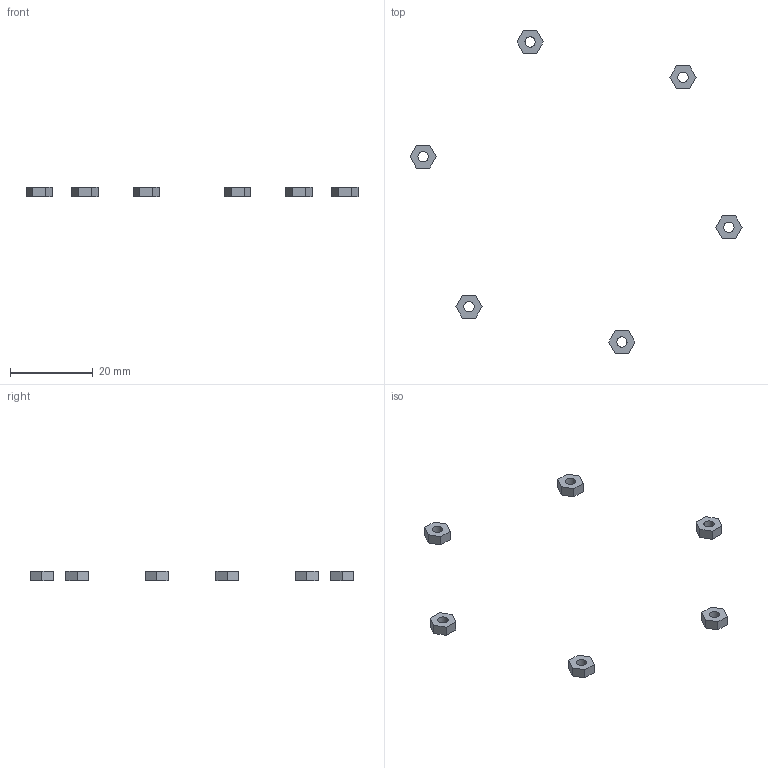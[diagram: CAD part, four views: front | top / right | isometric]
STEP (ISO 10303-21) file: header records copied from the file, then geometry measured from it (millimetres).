
FILE_DESCRIPTION(('Open CASCADE Model'),'2;1');
FILE_NAME('Open CASCADE Shape Model','2026-09-23T04:43:37',('Author'),( 'Open CASCADE'),'Open CASCADE STEP processor 7.9','Open CASCADE 7.9' ,'Unknown');
FILE_SCHEMA(('AUTOMOTIVE_DESIGN { 1 0 10303 214 1 1 1 1 }'));
Length unit declared in the file: millimetre
Products named in the file (7): Open CASCADE STEP translator 7.9 8; Open CASCADE STEP translator 7.9 8.1; Open CASCADE STEP translator 7.9 8.2; Open CASCADE STEP translator 7.9 8.3; Open CASCADE STEP translator 7.9 8.4; Open CASCADE STEP translator 7.9 8.5; Open CASCADE STEP translator 7.9 8.6
Assembly tree (6 placements, depth 2):
  Open CASCADE STEP translator 7.9 8
    Open CASCADE STEP translator 7.9 8.1
    Open CASCADE STEP translator 7.9 8.2
    Open CASCADE STEP translator 7.9 8.3
    Open CASCADE STEP translator 7.9 8.4
    Open CASCADE STEP translator 7.9 8.5
    Open CASCADE STEP translator 7.9 8.6
Bounding box: 80.4 x 78.18 x 2.4 mm (x, y, z)
Volume: 306.6 mm3; surface area: 642.9 mm2
Topology: 6 solids, 6 shells, 54 faces, 126 edges, 84 vertices
Faces by surface type: plane 48, cylinder 6
Full cylindrical faces by diameter (mm): 2.5 x6
Entity records: 3328 total; most frequent: CARTESIAN_POINT 595, DIRECTION 500, LINE 354, VECTOR 354, ORIENTED_EDGE 252, PCURVE 252, DEFINITIONAL_REPRESENTATION 252, EDGE_CURVE 126
